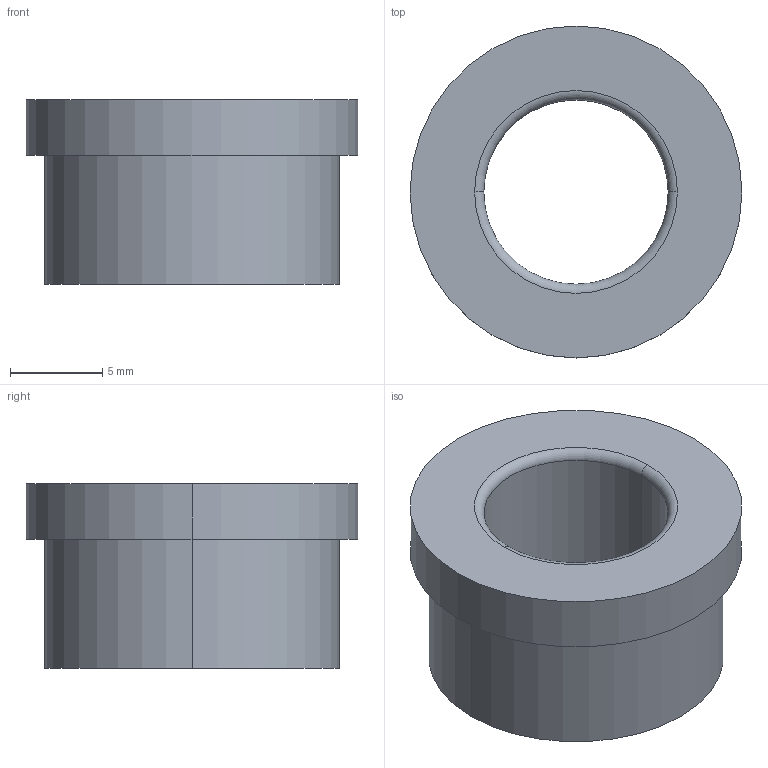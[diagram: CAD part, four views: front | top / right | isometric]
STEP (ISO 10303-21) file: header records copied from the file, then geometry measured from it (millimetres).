
FILE_DESCRIPTION(/* description */ (''),/* implementation_level */ '2;1');
FILE_NAME(/* name */ '3d_sghz10-10_00307_r00.stp',/* time_stamp */ '2011-01-10T14:11:11+09:00',/* author */ ('MISUMI'),/* organization */ (''),/* preprocessor_version */ 'ST-DEVELOPER v11',/* originating_system */ 'UGS - NX 5.0',/* authorisation */ '');
FILE_SCHEMA (('CONFIG_CONTROL_DESIGN'));
Length unit declared in the file: millimetre
Products named in the file (1): 3d_sghz10-10_00307_r00
Bounding box: 18 x 18 x 10 mm (x, y, z)
Volume: 1382 mm3; surface area: 1174.3 mm2
Topology: 1 solids, 1 shells, 13 faces, 26 edges, 16 vertices
Faces by surface type: cylinder 6, torus 4, plane 3
Entity records: 438 total; most frequent: DIRECTION 74, CARTESIAN_POINT 56, ORIENTED_EDGE 52, AXIS2_PLACEMENT_3D 34, EDGE_CURVE 26, CIRCLE 20, EDGE_LOOP 16, VERTEX_POINT 16
